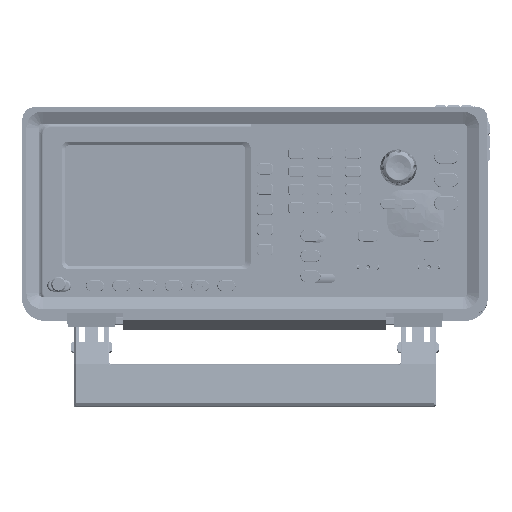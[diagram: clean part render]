
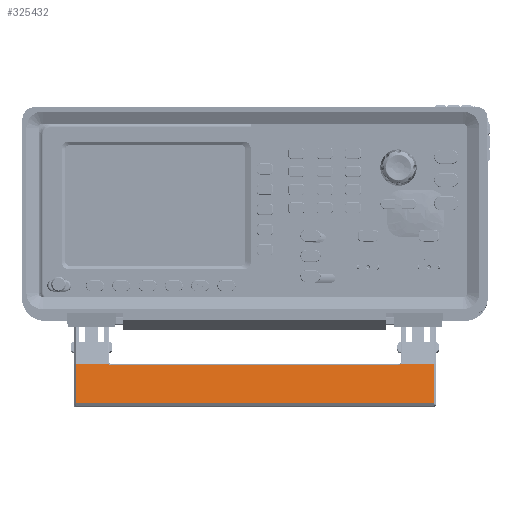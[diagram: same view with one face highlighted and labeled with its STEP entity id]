
A CAD part, top view. The second image highlights one B-rep face of the part: STEP entity #325432.
In plain terms, the highlighted planar face has unit normal (0, 0.162, 0.987) as drawn and (0, 0.976, 0.22) by its records, which use the part's own axes.
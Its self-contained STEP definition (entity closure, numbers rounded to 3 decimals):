
#323493=DIRECTION('',(-1.,0.,0.));
#323494=VECTOR('',#323493,16.293);
#323495=CARTESIAN_POINT('',(-72.207,4.,
0.));
#323496=LINE('',#323495,#323494);
#323557=DIRECTION('',(-1.,0.,0.));
#323558=VECTOR('',#323557,16.293);
#323559=CARTESIAN_POINT('',(88.5,4.,0.));
#323560=LINE('',#323559,#323558);
#323566=CARTESIAN_POINT('',(72.207,4.,
0.));
#323694=CARTESIAN_POINT('',(71.,3.863,0.61));
#323695=CARTESIAN_POINT('',(71.042,3.863,
0.61));
#323696=CARTESIAN_POINT('',(71.126,3.864,
0.606));
#323697=CARTESIAN_POINT('',(71.251,3.867,
0.59));
#323698=CARTESIAN_POINT('',(71.378,3.873,
0.563));
#323699=CARTESIAN_POINT('',(71.508,3.882,
0.523));
#323700=CARTESIAN_POINT('',(71.644,3.895,
0.467));
#323701=CARTESIAN_POINT('',(71.786,3.912,
0.391));
#323702=CARTESIAN_POINT('',(71.931,3.935,
0.291));
#323703=CARTESIAN_POINT('',(72.073,3.963,
0.164));
#323704=CARTESIAN_POINT('',(72.164,3.987,
0.059));
#323705=CARTESIAN_POINT('',(72.207,4.,
0.));
#323707=DIRECTION('',(0.,-0.22,0.976));
#323708=VECTOR('',#323707,19.7);
#323709=CARTESIAN_POINT('',(88.5,4.,0.));
#323710=LINE('',#323709,#323708);
#323711=DIRECTION('',(-1.,0.,0.));
#323712=VECTOR('',#323711,177.);
#323713=CARTESIAN_POINT('',(88.5,-0.324,19.22));
#323714=LINE('',#323713,#323712);
#323715=DIRECTION('',(0.,0.22,-0.976));
#323716=VECTOR('',#323715,19.7);
#323717=CARTESIAN_POINT('',(-88.5,-0.324,19.22));
#323718=LINE('',#323717,#323716);
#323719=CARTESIAN_POINT('',(-72.207,4.,
0.));
#323720=CARTESIAN_POINT('',(-72.138,3.979,
0.093));
#323721=CARTESIAN_POINT('',(-71.983,3.942,
0.26));
#323722=CARTESIAN_POINT('',(-71.695,3.898,
0.454));
#323723=CARTESIAN_POINT('',(-71.372,3.87,
0.577));
#323724=CARTESIAN_POINT('',(-71.128,3.863,
0.61));
#323725=CARTESIAN_POINT('',(-71.,3.863,
0.61));
#323727=DIRECTION('',(1.,0.,0.));
#323728=VECTOR('',#323727,142.);
#323729=CARTESIAN_POINT('',(-71.,3.863,
0.61));
#323730=LINE('',#323729,#323728);
#324352=CARTESIAN_POINT('',(88.5,4.,0.));
#324354=VERTEX_POINT('',#324352);
#324355=CARTESIAN_POINT('',(-88.5,4.,0.));
#324356=VERTEX_POINT('',#324355);
#324361=CARTESIAN_POINT('',(88.5,-0.324,19.22));
#324362=VERTEX_POINT('',#324361);
#324366=CARTESIAN_POINT('',(-88.5,-0.324,19.22));
#324367=VERTEX_POINT('',#324366);
#324444=VERTEX_POINT('',#323566);
#324445=VERTEX_POINT('',#323694);
#324449=CARTESIAN_POINT('',(-71.,3.863,
0.61));
#324450=VERTEX_POINT('',#324449);
#324451=VERTEX_POINT('',#323719);
#325412=CARTESIAN_POINT('',(-89.5,4.,0.));
#325413=DIRECTION('',(0.,-0.976,-0.22));
#325414=DIRECTION('',(0.,-0.22,0.976));
#325415=AXIS2_PLACEMENT_3D('',#325412,#325413,#325414);
#325416=PLANE('',#325415);
#325418=ORIENTED_EDGE('',*,*,#325417,.T.);
#325419=ORIENTED_EDGE('',*,*,#325208,.F.);
#325421=ORIENTED_EDGE('',*,*,#325420,.T.);
#325423=ORIENTED_EDGE('',*,*,#325422,.T.);
#325425=ORIENTED_EDGE('',*,*,#325424,.T.);
#325426=ORIENTED_EDGE('',*,*,#325176,.F.);
#325427=ORIENTED_EDGE('',*,*,#325402,.T.);
#325429=ORIENTED_EDGE('',*,*,#325428,.T.);
#325430=EDGE_LOOP('',(#325418,#325419,#325421,#325423,#325425,#325426,#325427,
#325429));
#325431=FACE_OUTER_BOUND('',#325430,.F.);
#323706=B_SPLINE_CURVE_WITH_KNOTS('',3,(#323694,#323695,#323696,#323697,#323698,
#323699,#323700,#323701,#323702,#323703,#323704,#323705),.UNSPECIFIED.,.F.,.F.,(
4,1,1,1,1,1,1,1,1,4),(0.,0.111,0.222,
0.333,0.444,0.556,0.667,
0.778,0.889,1.),.UNSPECIFIED.);
#323726=B_SPLINE_CURVE_WITH_KNOTS('',3,(#323719,#323720,#323721,#323722,#323723,
#323724,#323725),.UNSPECIFIED.,.F.,.F.,(4,1,1,1,4),(0.,0.25,0.5,0.75,
1.),.UNSPECIFIED.);
#325176=EDGE_CURVE('',#324451,#324356,#323496,.T.);
#325208=EDGE_CURVE('',#324354,#324444,#323560,.T.);
#325402=EDGE_CURVE('',#324451,#324450,#323726,.T.);
#325417=EDGE_CURVE('',#324445,#324444,#323706,.T.);
#325420=EDGE_CURVE('',#324354,#324362,#323710,.T.);
#325422=EDGE_CURVE('',#324362,#324367,#323714,.T.);
#325424=EDGE_CURVE('',#324367,#324356,#323718,.T.);
#325428=EDGE_CURVE('',#324450,#324445,#323730,.T.);
#325432=ADVANCED_FACE('',(#325431),#325416,.F.);
